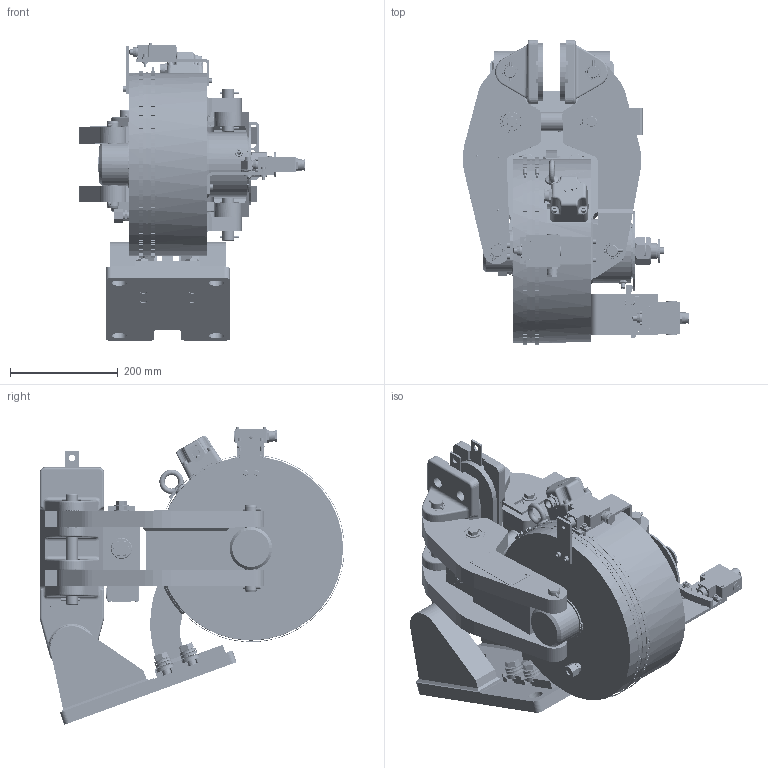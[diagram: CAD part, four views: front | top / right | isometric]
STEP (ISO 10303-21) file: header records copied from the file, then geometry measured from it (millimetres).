
FILE_DESCRIPTION((''),'2;1');
FILE_NAME('DA_ST1_ST2','2026-03-20T15:52:00',('MAPM'),(''),'CREO PARAMETRIC BY PTC INC, 2025102','CREO PARAMETRIC BY PTC INC, 2025102','');
FILE_SCHEMA(('AUTOMOTIVE_DESIGN { 1 0 10303 214 1 1 1 1 }'));
Length unit declared in the file: millimetre
Products named in the file (1): DA_ST1_ST2
Bounding box: 419.96 x 565.18 x 551.65 mm (x, y, z)
Volume: 13637863.2 mm3; surface area: 2217502.8 mm2
Topology: 10 solids, 11 shells, 4852 faces, 12894 edges, 8207 vertices
Faces by surface type: plane 2677, cylinder 949, cone 743, bspline 208, torus 149, extrusion 67, sphere 59
Entity records: 248911 total; most frequent: CARTESIAN_POINT 53151, ORIENTED_EDGE 25644, DIRECTION 25336, PRESENTATION_STYLE_ASSIGNMENT 17754, STYLED_ITEM 12902, CURVE_STYLE 12891, EDGE_CURVE 12822, AXIS2_PLACEMENT_3D 9187
